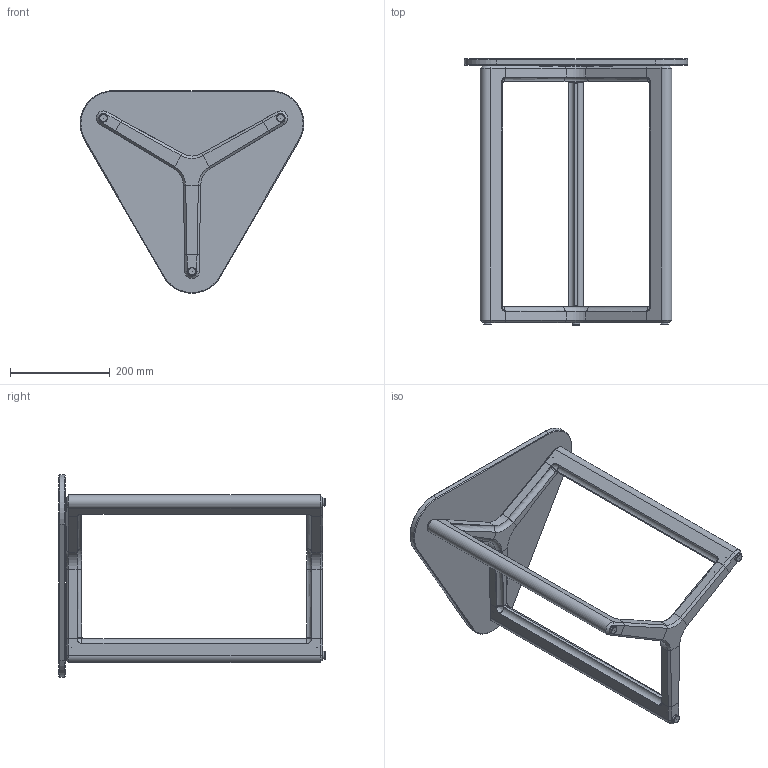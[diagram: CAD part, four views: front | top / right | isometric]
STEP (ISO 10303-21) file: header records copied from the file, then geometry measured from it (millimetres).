
FILE_DESCRIPTION(/* description */ ('SPANNER, SIDE TABLE, 18''''X 22''''H'),/* implementation_level */ '2;1');
FILE_NAME(/* name */ '1150-TRIANGLE-GL.stp',/* time_stamp */ '2024-02-20T13:37:44-05:00',/* author */ ('aunderhill'),/* organization */ (''),/* preprocessor_version */ 'ST-DEVELOPER v19.2',/* originating_system */ 'Autodesk Inventor 2023',/* authorisation */ '');
FILE_SCHEMA (('AUTOMOTIVE_DESIGN { 1 0 10303 214 3 1 1 }'));
Length unit declared in the file: inch
Products named in the file (9): 1150-TRIANGLE-GL; 1150-001; 1150-002; 1150-003; 1150-004; 97506; FA058; GL01-027; HD01-179
Assembly tree (43 placements, depth 3):
  1150-TRIANGLE-GL
    1150-001
      1150-002  x2
      1150-003  x6
      1150-004  x3
      97506  x3
      FA058  x24
    GL01-027
    HD01-179  x3
Bounding box: 448.85 x 533.4 x 406.4 mm (x, y, z)
Volume: 4126945.7 mm3; surface area: 664067.8 mm2
Topology: 42 solids, 42 shells, 462 faces, 879 edges, 552 vertices
Faces by surface type: plane 222, cylinder 111, cone 69, bspline 51, torus 9
Full cylindrical faces by diameter (mm): 1.575 x3, 9.728 x72, 15.875 x3
Entity records: 4081 total; most frequent: CARTESIAN_POINT 991, DIRECTION 624, ORIENTED_EDGE 478, AXIS2_PLACEMENT_3D 248, EDGE_CURVE 239, VERTEX_POINT 151, EDGE_LOOP 132, LINE 128
